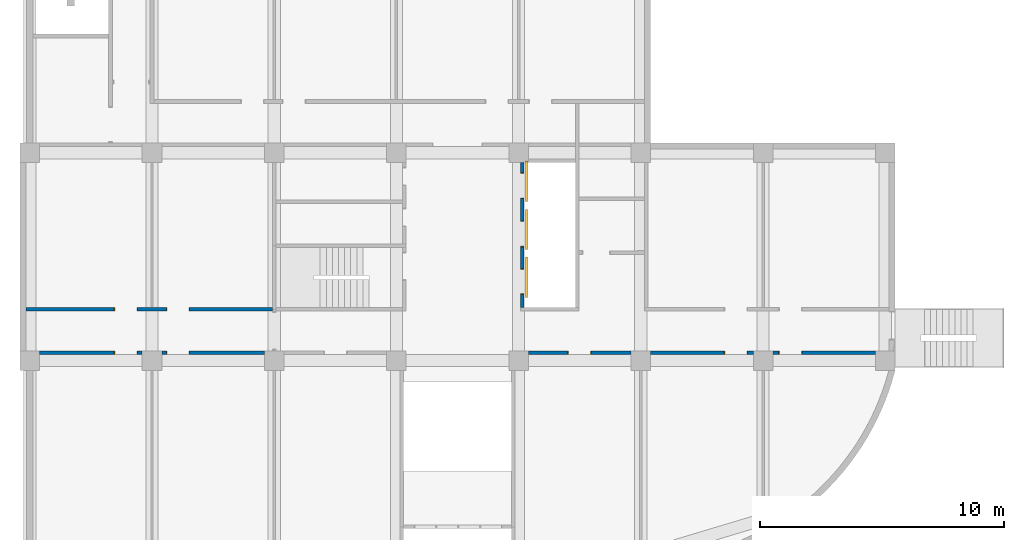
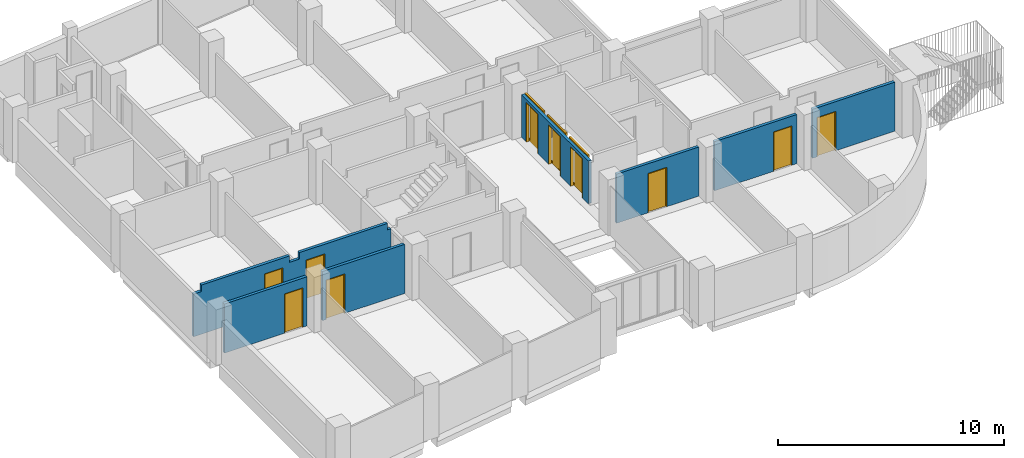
# One storey, part 3 of 7: 10 doors, 4 walls, 10 openings.
"""IFC2X3 building model written with IfcOpenShell, lengths in millimetres."""

import ifcopenshell
import ifcopenshell.guid

model = None  # the IFC model being written
_history = None  # IfcOwnerHistory: only IFC2X3 demands one
_inside = {}  # id of a spatial element -> (the spatial element, [elements in it])
_under = {}  # id of a project, library or spatial element -> (it, [spatial elements below it])
_declared = {}  # id of a project -> (the project, [libraries it declares])
_typed = {}  # id of a type object -> (the type object, [elements of that type])
_made_of = {}  # id of a material, layer set ... -> (it, [elements and type objects made of it])


def new_model(schema):
    """Start an empty IFC model of exactly this schema.

    Asked for "IFC4X3", IfcOpenShell would pick the latest addendum, in which some entities
    have other attributes; the version numbers below select the first issue.
    IFC2X3 requires an IfcOwnerHistory on every rooted entity: one is made here for all.
    """
    global model, _history
    if schema == "IFC4X3":
        model = ifcopenshell.file(schema_version=(4, 3, 0, 0))
    else:
        model = ifcopenshell.file(schema=schema)
    _inside.clear()
    _under.clear()
    _declared.clear()
    _typed.clear()
    _made_of.clear()
    _history = None
    if model.schema == "IFC2X3":
        org = make("IfcOrganization", Name="unknown")
        user = make(
            "IfcPersonAndOrganization",
            ThePerson=make("IfcPerson", FamilyName="unknown"),
            TheOrganization=org,
        )
        app = make(
            "IfcApplication",
            ApplicationDeveloper=org,
            Version="unknown",
            ApplicationFullName="unknown",
            ApplicationIdentifier="unknown",
        )
        _history = make(
            "IfcOwnerHistory",
            OwningUser=user,
            OwningApplication=app,
            ChangeAction="ADDED",
            CreationDate=0,
        )
    return model


def make(cls, **values):
    """One entity of the class cls with the attributes given. An attribute that is None is left unset."""
    return model.create_entity(
        cls, **{name: value for name, value in values.items() if value is not None}
    )


def entity(cls, *values):
    """Any entity or typed value of the class cls, its attributes in the order of the schema. None: left unset."""
    e = model.create_entity(cls)
    for i, value in enumerate(values):
        if value is not None:
            e[i] = value
    return e


def rooted(cls, **values):
    """An entity with a GlobalId (a new one), such as an element, a storey or a relation."""
    return make(cls, GlobalId=ifcopenshell.guid.new(), OwnerHistory=_history, **values)


def si_unit(unit_type, name, prefix=None):
    """IfcSIUnit, for example si_unit("LENGTHUNIT", "METRE", prefix="MILLI")."""
    return make("IfcSIUnit", UnitType=unit_type, Prefix=prefix, Name=name)


def converted_unit(unit_type, name, factor, base, dimensions=None, offset=None):
    """IfcConversionBasedUnit, such as the inch: factor (a typed value) times the base unit."""
    return make(
        "IfcConversionBasedUnit"
        if offset is None
        else "IfcConversionBasedUnitWithOffset",
        ConversionOffset=offset,
        Dimensions=None
        if dimensions is None
        else entity("IfcDimensionalExponents", *dimensions),
        UnitType=unit_type,
        Name=name,
        ConversionFactor=make(
            "IfcMeasureWithUnit", ValueComponent=factor, UnitComponent=base
        ),
    )


def derived_unit(unit_type, elements):
    """IfcDerivedUnit: a product of units, each with its exponent."""
    return make(
        "IfcDerivedUnit",
        Elements=[
            make("IfcDerivedUnitElement", Unit=unit, Exponent=power)
            for unit, power in elements
        ],
        UnitType=unit_type,
    )


def money_unit(currency):
    """IfcMonetaryUnit."""
    return make("IfcMonetaryUnit", Currency=currency)


def assignment(units):
    """IfcUnitAssignment: the units of a project."""
    return None if units is None else make("IfcUnitAssignment", Units=units)


def point(xyz):
    """IfcCartesianPoint."""
    return None if xyz is None else make("IfcCartesianPoint", Coordinates=xyz)


def direction(xyz):
    """IfcDirection."""
    return None if xyz is None else make("IfcDirection", DirectionRatios=xyz)


def frame(location, z_axis=None, x_axis=None):
    """IfcAxis2Placement3D, a coordinate frame: its origin and axes. An axis left out is left unset."""
    return make(
        "IfcAxis2Placement3D",
        Location=point(location),
        Axis=direction(z_axis),
        RefDirection=direction(x_axis),
    )


def origin_with_axes():
    """The frame at (0, 0, 0) with the z axis (0, 0, 1) and the x axis (1, 0, 0) written out."""
    return frame((0.0, 0.0, 0.0), z_axis=(0.0, 0.0, 1.0), x_axis=(1.0, 0.0, 0.0))


def place(relative_to, where):
    """IfcLocalPlacement: puts the frame where relative to a parent placement (None: the world)."""
    return make(
        "IfcLocalPlacement", PlacementRelTo=relative_to, RelativePlacement=where
    )


def context(
    kind, dimensions, precision=None, world=None, true_north=None, identifier=None
):
    """IfcGeometricRepresentationContext, for example the 3D "Model" context."""
    return make(
        "IfcGeometricRepresentationContext",
        ContextIdentifier=identifier,
        ContextType=kind,
        CoordinateSpaceDimension=dimensions,
        Precision=precision,
        WorldCoordinateSystem=world,
        TrueNorth=true_north,
    )


def subcontext(parent, identifier, kind, view, scale=None):
    """IfcGeometricRepresentationSubContext, for example "Body" below "Model"."""
    return make(
        "IfcGeometricRepresentationSubContext",
        ContextIdentifier=identifier,
        ContextType=kind,
        ParentContext=parent,
        TargetScale=scale,
        TargetView=view,
    )


def project(units=None, contexts=None):
    """IfcProject with its units and contexts."""
    return rooted(
        "IfcProject",
        Name="project",
        RepresentationContexts=contexts,
        UnitsInContext=assignment(units),
    )


def spatial(cls, under=None, at=None, **own):
    """A site, building, storey or space (cls), placed at a placement, below another one or the project."""
    s = rooted(cls, ObjectPlacement=at, **own)
    if under is not None:
        _under.setdefault(under.id(), (under, []))[1].append(s)
    return s


def faces_of(points, faces, orient=None, outer=None):
    """IfcFace entities. A face is a list of loops; a loop is a list of indices into points, from 0.

    orient and outer hold one flag for each loop. By default every Orientation is true, the
    first loop of a face is its IfcFaceOuterBound and the others are IfcFaceBound.
    """
    made = []
    for i, loops in enumerate(faces):
        bounds = []
        for j, loop in enumerate(loops):
            is_outer = j == 0 if outer is None else outer[i][j]
            bounds.append(
                make(
                    "IfcFaceOuterBound" if is_outer else "IfcFaceBound",
                    Bound=make("IfcPolyLoop", Polygon=[points[k] for k in loop]),
                    Orientation=True if orient is None else orient[i][j],
                )
            )
        made.append(make("IfcFace", Bounds=bounds))
    return made


def open_shell(faces, orient=None, outer=None):
    """The faces of one IfcOpenShell. surface_model builds it on its shared points."""
    return ("IfcOpenShell", faces, orient, outer)


def faceted_brep(points, faces, orient=None, outer=None, voids=None):
    """IfcFacetedBrep: a solid bounded by flat faces; with voids (closed shells), ...WithVoids."""
    shared = [point(p) for p in points]
    hull = make("IfcClosedShell", CfsFaces=faces_of(shared, faces, orient, outer))
    if voids is None:
        return make("IfcFacetedBrep", Outer=hull)
    return make(
        "IfcFacetedBrepWithVoids",
        Outer=hull,
        Voids=[
            make(cls, CfsFaces=faces_of(shared, fs, o, b)) for cls, fs, o, b in voids
        ],
    )


def surface_model(cls, points, shells):
    """IfcFaceBasedSurfaceModel or IfcShellBasedSurfaceModel (cls): surfaces that need not close."""
    shared = [point(p) for p in points]
    made = [make(c, CfsFaces=faces_of(shared, fs, o, b)) for c, fs, o, b in shells]
    if cls == "IfcFaceBasedSurfaceModel":
        return make(cls, FbsmFaces=made)
    return make(cls, SbsmBoundary=made)


def shape(context_of_items, identifier, shape_type, items):
    """IfcShapeRepresentation: the items that make up one representation, for example the "Body"."""
    return make(
        "IfcShapeRepresentation",
        ContextOfItems=context_of_items,
        RepresentationIdentifier=identifier,
        RepresentationType=shape_type,
        Items=items,
    )


def source(mapping_origin, context_of_items, identifier, shape_type, items):
    """IfcRepresentationMap: a shape defined once, which mapped items show again and again."""
    return make(
        "IfcRepresentationMap",
        MappingOrigin=mapping_origin,
        MappedRepresentation=shape(context_of_items, identifier, shape_type, items),
    )


def transform(
    local_origin,
    x_axis=None,
    y_axis=None,
    z_axis=None,
    scale=None,
    scale2=None,
    scale3=None,
    uniform=True,
):
    """IfcCartesianTransformationOperator3D, or its non-uniform kind. x_axis, y_axis, z_axis: its Axis1, 2, 3."""
    if uniform:
        return make(
            "IfcCartesianTransformationOperator3D",
            Axis1=direction(x_axis),
            Axis2=direction(y_axis),
            LocalOrigin=point(local_origin),
            Scale=scale,
            Axis3=direction(z_axis),
        )
    return make(
        "IfcCartesianTransformationOperator3DnonUniform",
        Axis1=direction(x_axis),
        Axis2=direction(y_axis),
        LocalOrigin=point(local_origin),
        Scale=scale,
        Axis3=direction(z_axis),
        Scale2=scale2,
        Scale3=scale3,
    )


def mapped(mapping_source, mapping_target):
    """IfcMappedItem: shows the shape of a source again, moved by a transform."""
    return make(
        "IfcMappedItem", MappingSource=mapping_source, MappingTarget=mapping_target
    )


def material(Name=None, Category=None):
    """IfcMaterial."""
    return make("IfcMaterial", Name=Name, Category=Category)


def made_of(thing, what):
    """Note that an element or type object is made of a material, layer set ...; save() writes the relation."""
    if what is not None:
        _made_of.setdefault(what.id(), (what, []))[1].append(thing)
    return thing


def type_object(cls, material=None, **own):
    """A type object (cls), such as IfcWallType, which elements share."""
    return made_of(rooted(cls, **own), material)


def element(
    cls,
    number,
    at=None,
    inside=None,
    cuts=None,
    type_object=None,
    material=None,
    context=None,
    identifier="Body",
    shape_type=None,
    held_by="IfcProductDefinitionShape",
    body=None,
    shapes=None,
    **own,
):
    """One element of the class cls, such as IfcWall. Its Tag is "e" and its number.

    at: its placement. inside: the storey or other place that contains it. cuts: it is an
    opening in that element (IfcRelVoidsElement). A single representation is given by context,
    identifier, shape_type and body (its items); several are given by shapes. held_by: the class
    of the entity that holds the representations. save() writes the other relations.
    """
    e = rooted(cls, Tag="e%d" % number, ObjectPlacement=at, **own)
    if body is not None:
        shapes = [shape(context, identifier, shape_type, body)]
    if shapes is not None:
        e.Representation = make(held_by, Representations=shapes)
    if inside is not None:
        _inside.setdefault(inside.id(), (inside, []))[1].append(e)
    if cuts is not None:
        rooted(
            "IfcRelVoidsElement", RelatingBuildingElement=cuts, RelatedOpeningElement=e
        )
    if type_object is not None:
        _typed.setdefault(type_object.id(), (type_object, []))[1].append(e)
    return made_of(e, material)


def fill(opening, filler):
    """IfcRelFillsElement: the door or window that sits in an opening."""
    return rooted(
        "IfcRelFillsElement",
        RelatingOpeningElement=opening,
        RelatedBuildingElement=filler,
    )


def aggregate(whole, parts):
    """IfcRelAggregates: a whole, such as a stair, and the parts it consists of."""
    return rooted("IfcRelAggregates", RelatingObject=whole, RelatedObjects=parts)


def save(model, path):
    """Write the relations noted so far, then the file.

    IfcRelAggregates (storeys below a building ...), IfcRelContainedInSpatialStructure (elements
    in a storey), IfcRelDefinesByType, IfcRelAssociatesMaterial and IfcRelDeclares: one each for
    every whole, place, type object, material and project.
    """
    for whole, parts in _under.values():
        aggregate(whole, parts)
    for where, things in _inside.values():
        rooted(
            "IfcRelContainedInSpatialStructure",
            RelatedElements=things,
            RelatingStructure=where,
        )
    for kind, things in _typed.values():
        rooted("IfcRelDefinesByType", RelatedObjects=things, RelatingType=kind)
    for what, things in _made_of.values():
        rooted("IfcRelAssociatesMaterial", RelatedObjects=things, RelatingMaterial=what)
    for by, libraries in _declared.values():
        rooted("IfcRelDeclares", RelatingContext=by, RelatedDefinitions=libraries)
    model.write(path)


model = new_model("IFC2X3")

# Units and contexts
model_context = context("Model", 3, precision=0.01, world=origin_with_axes(), true_north=direction((0.0, 1.0)))
body_context = subcontext(model_context, "Body", "Model", "MODEL_VIEW")
ifc_project = project(units=[si_unit("LENGTHUNIT", "METRE", prefix="MILLI"), si_unit("AREAUNIT", "SQUARE_METRE"), si_unit("VOLUMEUNIT", "CUBIC_METRE"), converted_unit("PLANEANGLEUNIT", "DEGREE", entity("IfcPlaneAngleMeasure", 0.0174532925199), si_unit("PLANEANGLEUNIT", "RADIAN"), dimensions=[0, 0, 0, 0, 0, 0, 0]), si_unit("SOLIDANGLEUNIT", "STERADIAN"), money_unit("JPY"), converted_unit("TIMEUNIT", "Year", entity("IfcTimeMeasure", 31556926.0), si_unit("TIMEUNIT", "SECOND"), dimensions=[0, 0, 1, 0, 0, 0, 0]), si_unit("MASSUNIT", "GRAM", prefix="KILO"), si_unit("THERMODYNAMICTEMPERATUREUNIT", "DEGREE_CELSIUS"), si_unit("LUMINOUSINTENSITYUNIT", "LUMEN"), si_unit("ENERGYUNIT", "JOULE", prefix="MEGA"), derived_unit("THERMALCONDUCTANCEUNIT", [(si_unit("POWERUNIT", "WATT"), 1), (si_unit("LENGTHUNIT", "METRE"), -1), (si_unit("THERMODYNAMICTEMPERATUREUNIT", "KELVIN"), -1)]), derived_unit("SPECIFICHEATCAPACITYUNIT", [(si_unit("ENERGYUNIT", "JOULE"), 1), (si_unit("MASSUNIT", "GRAM", prefix="KILO"), -1), (si_unit("THERMODYNAMICTEMPERATUREUNIT", "KELVIN"), -1)]), derived_unit("MASSDENSITYUNIT", [(si_unit("MASSUNIT", "GRAM", prefix="KILO"), 1), (si_unit("VOLUMEUNIT", "CUBIC_METRE"), -1)])], contexts=[model_context])

# Site, building, storey
site_placement = place(None, origin_with_axes())
site = spatial("IfcSite", under=ifc_project, at=site_placement, Name="サイト", CompositionType="ELEMENT")
building_placement = place(site_placement, origin_with_axes())
building = spatial("IfcBuilding", under=site, at=building_placement, Name="建築", CompositionType="ELEMENT")
storey_placement = place(building_placement, frame((0.0, 0.0, 3000.0), z_axis=(0.0, 0.0, 1.0), x_axis=(1.0, 0.0, 0.0)))
storey = spatial("IfcBuildingStorey", under=building, at=storey_placement, Name="2FL", CompositionType="ELEMENT", Elevation=3000.0)

# Wall, openings, doors
ifc_material = material(Name="コンクリート")
wall_type = type_object("IfcWallType", Name="コンクリート 150", PredefinedType="NOTDEFINED")
wall_1_placement = place(storey_placement, frame((10000.0, 324.999998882, 0.0), z_axis=(0.0, 0.0, 1.0), x_axis=(-1.0, 0.0, 0.0)))
wall_1 = element("IfcWall", 1, at=wall_1_placement, inside=storey, type_object=wall_type, material=ifc_material, Name="W4", context=body_context, shape_type="Brep", body=[
    faceted_brep([(6545.0, -75.0000011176, 2130.0), (6545.0, -75.0000011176, 0.0), (9600.0, -75.0000011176, 0.0), (9600.0, -75.0000011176, 2650.0), (5400.0, -75.0000011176, 2650.0), (5400.0, -75.0000011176, 0.0), (5585.0, -75.0000011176, 0.0), (5585.0, -75.0000011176, 2130.0), (6545.0, 74.9999988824, 2130.0), (6545.0, 75.0, 0.0), (9600.0, 75.0, 0.0), (9600.0, 74.9999988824, 2650.0), (5400.0, 74.9999988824, 2650.0), (5400.0, 75.0, 0.0), (5585.0, 75.0, 0.0), (5585.0, 74.9999988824, 2130.0)], [[[0, 1, 2, 3, 4, 5, 6, 7]], [[1, 0, 8, 9]], [[1, 9, 10, 2]], [[11, 3, 2, 10]], [[3, 11, 12, 4]], [[5, 4, 12, 13]], [[14, 6, 5, 13]], [[7, 6, 14, 15]], [[0, 7, 15, 8]], [[15, 14, 13, 12, 11, 10, 9, 8]]]),
    faceted_brep([(4415.0, -75.0000011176, 2130.0), (4415.0, -75.0000011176, 0.0), (4600.0, -75.0000011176, 0.0), (4600.0, -75.0000011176, 2650.0), (400.0, -75.0000011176, 2650.0), (400.0, -75.0000011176, 0.0), (3455.0, -75.0000011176, 0.0), (3455.0, -75.0000011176, 2130.0), (4415.0, 74.9999988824, 2130.0), (4415.0, 75.0, 0.0), (4600.0, 75.0, 0.0), (4600.0, 74.9999988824, 2650.0), (400.0, 74.9999988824, 2650.0), (400.0, 75.0, 0.0), (3455.0, 75.0, 0.0), (3455.0, 74.9999988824, 2130.0)], [[[0, 1, 2, 3, 4, 5, 6, 7]], [[1, 0, 8, 9]], [[1, 9, 10, 2]], [[11, 3, 2, 10]], [[3, 11, 12, 4]], [[5, 4, 12, 13]], [[14, 6, 5, 13]], [[7, 6, 14, 15]], [[0, 7, 15, 8]], [[15, 14, 13, 12, 11, 10, 9, 8]]]),
])
opening_1_placement = place(wall_1_placement, frame((3935.0, 0.0, 0.0), z_axis=(0.0, 0.0, 1.0), x_axis=(1.0, 0.0, 0.0)))
opening_1 = element("IfcOpeningElement", 2, at=opening_1_placement, cuts=wall_1, Name="SD4", context=body_context, shape_type="Brep", body=[
    faceted_brep([(-480.0, -160.0, 0.0), (-480.0, -160.0, 2130.0), (-480.0, 160.0, 2130.0), (-480.0, 160.0, 0.0), (480.0, -160.0, 0.0), (480.0, -160.0, 2130.0), (480.0, 160.0, 2130.0), (480.0, 160.0, 0.0)], [[[0, 1, 2, 3]], [[0, 4, 5, 1]], [[1, 5, 6, 2]], [[3, 2, 6, 7]], [[4, 0, 3, 7]], [[5, 4, 7, 6]]]),
])
opening_2_placement = place(wall_1_placement, frame((6065.0, 0.0, 0.0), z_axis=(0.0, 0.0, 1.0), x_axis=(1.0, 0.0, 0.0)))
opening_2 = element("IfcOpeningElement", 3, at=opening_2_placement, cuts=wall_1, Name="SD5", context=body_context, shape_type="Brep", body=[
    faceted_brep([(480.0, 160.0, 0.0), (480.0, 160.0, 2130.0), (480.0, -160.0, 2130.0), (480.0, -160.0, 0.0), (-480.0, 160.0, 0.0), (-480.0, 160.0, 2130.0), (-480.0, -160.0, 2130.0), (-480.0, -160.0, 0.0)], [[[0, 1, 2, 3]], [[0, 4, 5, 1]], [[1, 5, 6, 2]], [[3, 2, 6, 7]], [[4, 0, 3, 7]], [[5, 4, 7, 6]]]),
])
door_style_1 = type_object("IfcDoorStyle", Name="片開き戸", ConstructionType="NOTDEFINED", OperationType="NOTDEFINED", ParameterTakesPrecedence=False, Sizeable=False)
shared_shape_1 = source(origin_with_axes(), body_context, "Body", "SurfaceModel", [
    surface_model("IfcShellBasedSurfaceModel", [(-450.0, -85.0, 0.0), (-450.0, -85.0, 2100.0), (450.0, -85.0, 2100.0), (450.0, -85.0, 0.0)], [open_shell([[[0, 1, 2, 3]]])]),
    surface_model("IfcShellBasedSurfaceModel", [(-480.0, -10.0, 0.0), (-480.0, -10.0, 2130.0), (480.0, -10.0, 2130.0), (480.0, -10.0, 0.0), (450.0, -10.0, 0.0), (450.0, -10.0, 2100.0), (-450.0, -10.0, 2100.0), (-450.0, -10.0, 0.0)], [open_shell([[[0, 1, 2, 3, 4, 5, 6, 7]]])]),
    surface_model("IfcShellBasedSurfaceModel", [(-480.0, -160.0, 0.0), (-480.0, -160.0, 2130.0), (480.0, -160.0, 2130.0), (480.0, -160.0, 0.0), (450.0, -160.0, 0.0), (450.0, -160.0, 2100.0), (-450.0, -160.0, 2100.0), (-450.0, -160.0, 0.0)], [open_shell([[[0, 1, 2, 3, 4, 5, 6, 7]]])]),
    surface_model("IfcShellBasedSurfaceModel", [(-450.0, -10.0, 0.0), (-450.0, -10.0, 2100.0), (-450.0, -160.0, 2100.0), (-450.0, -160.0, 0.0), (450.0, -10.0, 2100.0), (450.0, -160.0, 2100.0), (-480.0, -10.0, 0.0), (-480.0, -160.0, 0.0), (450.0, -10.0, 0.0), (450.0, -160.0, 0.0), (-480.0, -10.0, 2130.0), (-480.0, -160.0, 2130.0), (480.0, -10.0, 0.0), (480.0, -160.0, 0.0), (480.0, -10.0, 2130.0), (480.0, -160.0, 2130.0)], [open_shell([[[0, 1, 2, 3]], [[1, 4, 5, 2]], [[6, 0, 3, 7]], [[4, 8, 9, 5]], [[10, 6, 7, 11]], [[8, 12, 13, 9]], [[14, 10, 11, 15]], [[12, 14, 15, 13]]])]),
])
door_1_placement = place(opening_1_placement, frame((-450.0, 0.0, 0.0), z_axis=(0.0, 0.0, 1.0), x_axis=(1.0, 0.0, 0.0)))
door_1 = element("IfcDoor", 4, at=door_1_placement, inside=storey, type_object=door_style_1, Name="SD4", OverallHeight=2165.0, OverallWidth=1030.0, context=body_context, shape_type="MappedRepresentation", body=[
    mapped(shared_shape_1, transform((450.0, 85.0, 0.0))),
])
fill(opening_1, door_1)
shared_shape_2 = source(origin_with_axes(), body_context, "Body", "SurfaceModel", [
    surface_model("IfcShellBasedSurfaceModel", [(450.0, -85.0, 0.0), (-450.0, -85.0, 0.0), (-450.0, -85.0, 2100.0), (450.0, -85.0, 2100.0)], [open_shell([[[0, 1, 2, 3]]])]),
    surface_model("IfcShellBasedSurfaceModel", [(480.0, -10.0, 0.0), (450.0, -10.0, 0.0), (450.0, -10.0, 2100.0), (-450.0, -10.0, 2100.0), (-450.0, -10.0, 0.0), (-480.0, -10.0, 0.0), (-480.0, -10.0, 2130.0), (480.0, -10.0, 2130.0)], [open_shell([[[0, 1, 2, 3, 4, 5, 6, 7]]])]),
    surface_model("IfcShellBasedSurfaceModel", [(480.0, -160.0, 0.0), (450.0, -160.0, 0.0), (450.0, -160.0, 2100.0), (-450.0, -160.0, 2100.0), (-450.0, -160.0, 0.0), (-480.0, -160.0, 0.0), (-480.0, -160.0, 2130.0), (480.0, -160.0, 2130.0)], [open_shell([[[0, 1, 2, 3, 4, 5, 6, 7]]])]),
    surface_model("IfcShellBasedSurfaceModel", [(450.0, -10.0, 0.0), (450.0, -160.0, 0.0), (450.0, -160.0, 2100.0), (450.0, -10.0, 2100.0), (480.0, -10.0, 0.0), (480.0, -160.0, 0.0), (-450.0, -160.0, 2100.0), (-450.0, -10.0, 2100.0), (480.0, -10.0, 2130.0), (480.0, -160.0, 2130.0), (-450.0, -160.0, 0.0), (-450.0, -10.0, 0.0), (-480.0, -10.0, 2130.0), (-480.0, -160.0, 2130.0), (-480.0, -160.0, 0.0), (-480.0, -10.0, 0.0)], [open_shell([[[0, 1, 2, 3]], [[4, 5, 1, 0]], [[3, 2, 6, 7]], [[8, 9, 5, 4]], [[7, 6, 10, 11]], [[12, 13, 9, 8]], [[11, 10, 14, 15]], [[15, 14, 13, 12]]])]),
])
door_2_placement = place(opening_2_placement, frame((-450.0, 0.0, 0.0), z_axis=(0.0, 0.0, 1.0), x_axis=(1.0, 0.0, 0.0)))
door_2 = element("IfcDoor", 5, at=door_2_placement, inside=storey, type_object=door_style_1, Name="SD5", OverallHeight=2165.0, OverallWidth=1030.0, context=body_context, shape_type="MappedRepresentation", body=[
    mapped(shared_shape_2, transform((450.0, 85.0, 0.0))),
])
fill(opening_2, door_2)

wall_2_placement = place(storey_placement, frame((-275.00006329, 2100.0, 0.0), z_axis=(0.0, 0.0, 1.0), x_axis=(1.0, 0.0, 0.0)))
wall_2 = element("IfcWall", 6, at=wall_2_placement, inside=storey, type_object=wall_type, material=ifc_material, Name="W3", context=body_context, shape_type="Brep", body=[
    faceted_brep([(3730.00006329, 75.0, 2130.0), (3730.00006329, 75.0, 0.0), (125.0, 75.0, 0.0), (125.0, 75.0, 2300.0), (525.00006329, 75.0, 2300.0), (525.00006329, 75.0, 2650.0), (5025.00006329, 75.0, 2650.0), (5025.00006329, 75.0, 2300.0), (5525.00006329, 75.0, 2300.0), (5525.00006329, 75.0, 2650.0), (10025.0000633, 75.0, 2650.0), (10025.0000633, 75.0, 2300.0), (10200.0000633, 75.0, 2300.0), (10200.0000633, 75.0, 0.0), (6820.00006329, 75.0, 0.0), (6820.00006329, 75.0, 2130.0), (5860.00006329, 75.0, 2130.0), (5860.00006329, 75.0, 0.0), (4690.00006329, 75.0, 0.0), (4690.00006329, 75.0, 2130.0), (3730.00006329, -75.0, 2130.0), (3730.00006329, -75.0, 0.0), (125.0, -75.0, 0.0), (125.0, -75.0, 2300.0), (525.00006329, -75.0, 2300.0), (525.00006329, -75.0, 2650.0), (5025.00006329, -75.0, 2650.0), (5025.00006329, -75.0, 2300.0), (5525.00006329, -75.0, 2300.0), (5525.00006329, -75.0, 2650.0), (10025.0000633, -75.0, 2650.0), (10025.0000633, -75.0, 2300.0), (10200.0000633, -75.0, 2300.0), (10200.0000633, 0.0, 2300.0), (10200.0000633, 0.0, 0.0), (10200.0000633, -75.0, 0.0), (6820.00006329, -75.0, 0.0), (6820.00006329, -75.0, 2130.0), (5860.00006329, -75.0, 2130.0), (5860.00006329, -75.0, 0.0), (4690.00006329, -75.0, 0.0), (4690.00006329, -75.0, 2130.0)], [[[0, 1, 2, 3, 4, 5, 6, 7, 8, 9, 10, 11, 12, 13, 14, 15, 16, 17, 18, 19]], [[1, 0, 20, 21]], [[1, 21, 22, 2]], [[3, 2, 22, 23]], [[3, 23, 24, 4]], [[5, 4, 24, 25]], [[25, 26, 6, 5]], [[6, 26, 27, 7]], [[7, 27, 28, 8]], [[9, 8, 28, 29]], [[29, 30, 10, 9]], [[10, 30, 31, 11]], [[31, 32, 33, 12, 11]], [[33, 34, 13, 12]], [[13, 34, 35, 36, 14]], [[14, 36, 37, 15]], [[15, 37, 38, 16]], [[16, 38, 39, 17]], [[40, 18, 17, 39]], [[19, 18, 40, 41]], [[0, 19, 41, 20]], [[41, 40, 39, 38, 37, 36, 35, 32, 31, 30, 29, 28, 27, 26, 25, 24, 23, 22, 21, 20]], [[32, 35, 34, 33]]]),
])
opening_3_placement = place(wall_2_placement, frame((6340.00006329, 0.0, 0.0), z_axis=(0.0, 0.0, 1.0), x_axis=(1.0, 0.0, 0.0)))
opening_3 = element("IfcOpeningElement", 7, at=opening_3_placement, cuts=wall_2, Name="SD4", context=body_context, shape_type="Brep", body=[
    faceted_brep([(480.0, 160.0, 0.0), (480.0, 160.0, 2130.0), (480.0, -160.0, 2130.0), (480.0, -160.0, 0.0), (-480.0, 160.0, 0.0), (-480.0, 160.0, 2130.0), (-480.0, -160.0, 2130.0), (-480.0, -160.0, 0.0)], [[[0, 1, 2, 3]], [[0, 4, 5, 1]], [[1, 5, 6, 2]], [[3, 2, 6, 7]], [[4, 0, 3, 7]], [[5, 4, 7, 6]]]),
])
opening_4_placement = place(wall_2_placement, frame((4210.00006329, 0.0, 0.0), z_axis=(0.0, 0.0, 1.0), x_axis=(1.0, 0.0, 0.0)))
opening_4 = element("IfcOpeningElement", 8, at=opening_4_placement, cuts=wall_2, Name="SD5", context=body_context, shape_type="Brep", body=[
    faceted_brep([(-480.0, -160.0, 0.0), (-480.0, -160.0, 2130.0), (-480.0, 160.0, 2130.0), (-480.0, 160.0, 0.0), (480.0, -160.0, 0.0), (480.0, -160.0, 2130.0), (480.0, 160.0, 2130.0), (480.0, 160.0, 0.0)], [[[0, 1, 2, 3]], [[0, 4, 5, 1]], [[1, 5, 6, 2]], [[3, 2, 6, 7]], [[4, 0, 3, 7]], [[5, 4, 7, 6]]]),
])
door_3_placement = place(opening_4_placement, frame((-450.0, 0.0, 0.0), z_axis=(0.0, 0.0, 1.0), x_axis=(1.0, 0.0, 0.0)))
door_3 = element("IfcDoor", 9, at=door_3_placement, inside=storey, type_object=door_style_1, Name="SD5", OverallHeight=2165.0, OverallWidth=1030.0, context=body_context, shape_type="MappedRepresentation", body=[
    mapped(shared_shape_1, transform((450.0, 85.0, 0.0))),
])
fill(opening_4, door_3)
door_4_placement = place(opening_3_placement, frame((-450.0, 0.0, 0.0), z_axis=(0.0, 0.0, 1.0), x_axis=(1.0, 0.0, 0.0)))
door_4 = element("IfcDoor", 10, at=door_4_placement, inside=storey, type_object=door_style_1, Name="SD4", OverallHeight=2165.0, OverallWidth=1030.0, context=body_context, shape_type="MappedRepresentation", body=[
    mapped(shared_shape_2, transform((450.0, 85.0, 0.0))),
])
fill(opening_3, door_4)

wall_3_placement = place(storey_placement, frame((19775.0000519, 325.000021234, 0.0), z_axis=(0.0, 0.0, 1.0), x_axis=(1.0, 0.0, 0.0)))
wall_3 = element("IfcWall", 11, at=wall_3_placement, inside=storey, type_object=wall_type, material=ifc_material, Name="W5", context=body_context, shape_type="Brep", body=[
    faceted_brep([(2229.9998683, 74.9999787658, 2130.0), (2229.9998683, 74.9999787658, 0.0), (624.999948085, 74.9999787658, 0.0), (624.999948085, 74.9999787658, 2650.0), (4824.99994809, 74.9999787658, 2650.0), (4824.99994809, 74.9999787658, 0.0), (3189.9998683, 74.9999787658, 0.0), (3189.9998683, 74.9999787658, 2130.0), (2229.9998683, -75.0000212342, 2130.0), (2229.9998683, -75.0, 0.0), (624.999948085, -75.0, 0.0), (624.999948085, -75.0000212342, 2650.0), (4824.99994809, -75.0000212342, 2650.0), (4824.99994809, -75.0, 0.0), (3189.9998683, -75.0, 0.0), (3189.9998683, -75.0000212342, 2130.0)], [[[0, 1, 2, 3, 4, 5, 6, 7]], [[1, 0, 8, 9]], [[1, 9, 10, 2]], [[11, 3, 2, 10]], [[3, 11, 12, 4]], [[5, 4, 12, 13]], [[14, 6, 5, 13]], [[7, 6, 14, 15]], [[0, 7, 15, 8]], [[15, 14, 13, 12, 11, 10, 9, 8]]]),
    faceted_brep([(10859.9999481, 74.9999787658, 2130.0), (10859.9999481, 74.9999787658, 0.0), (10624.9999481, 74.9999787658, 0.0), (10624.9999481, 74.9999787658, 2650.0), (14824.9999481, 74.9999787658, 2650.0), (14824.9999481, 74.9999787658, 0.0), (11819.9999481, 74.9999787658, 0.0), (11819.9999481, 74.9999787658, 2130.0), (10859.9999481, -75.0000023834, 2130.0), (10859.9999481, -75.0, 0.0), (10624.9999481, -75.0, 0.0), (10624.9999481, -75.0000205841, 2650.0), (14824.9999481, -75.0000023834, 2650.0), (14824.9999481, -75.0, 0.0), (11819.9999481, -75.0, 0.0), (11819.9999481, -75.0000023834, 2130.0)], [[[0, 1, 2, 3, 4, 5, 6, 7]], [[1, 0, 8, 9]], [[1, 9, 10, 2]], [[11, 3, 2, 10]], [[3, 11, 12, 4]], [[5, 4, 12, 13]], [[14, 6, 5, 13]], [[7, 6, 14, 15]], [[0, 7, 15, 8]], [[15, 14, 13, 12, 11, 10, 9, 8]]]),
    faceted_brep([(8629.99994809, 74.9999787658, 2130.0), (8629.99994809, 74.9999787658, 0.0), (5624.99994809, 74.9999787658, 0.0), (5624.99994809, 74.9999787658, 2650.0), (9824.99994809, 74.9999787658, 2650.0), (9824.99994809, 74.9999787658, 0.0), (9589.99994809, 74.9999787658, 0.0), (9589.99994809, 74.9999787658, 2130.0), (8629.99994809, -75.0000212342, 2130.0), (8629.99994809, -75.0, 0.0), (5624.99994809, -75.0, 0.0), (5624.99994809, -75.0000212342, 2650.0), (9824.99994809, -75.0000212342, 2650.0), (9824.99994809, -75.0, 0.0), (9589.99994809, -75.0, 0.0), (9589.99994809, -75.0000212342, 2130.0)], [[[0, 1, 2, 3, 4, 5, 6, 7]], [[1, 0, 8, 9]], [[1, 9, 10, 2]], [[11, 3, 2, 10]], [[3, 11, 12, 4]], [[5, 4, 12, 13]], [[14, 6, 5, 13]], [[7, 6, 14, 15]], [[0, 7, 15, 8]], [[15, 14, 13, 12, 11, 10, 9, 8]]]),
])
opening_5_placement = place(wall_3_placement, frame((11339.9999481, 0.0, 0.0), z_axis=(0.0, 0.0, 1.0), x_axis=(1.0, 0.0, 0.0)))
opening_5 = element("IfcOpeningElement", 12, at=opening_5_placement, cuts=wall_3, Name="SD5", context=body_context, shape_type="Brep", body=[
    faceted_brep([(480.0, 160.0, 0.0), (480.0, 160.0, 2130.0), (480.0, -160.0, 2130.0), (480.0, -160.0, 0.0), (-480.0, 160.0, 0.0), (-480.0, 160.0, 2130.0), (-480.0, -160.0, 2130.0), (-480.0, -160.0, 0.0)], [[[0, 1, 2, 3]], [[0, 4, 5, 1]], [[1, 5, 6, 2]], [[3, 2, 6, 7]], [[4, 0, 3, 7]], [[5, 4, 7, 6]]]),
])
opening_6_placement = place(wall_3_placement, frame((9109.99994809, 0.0, 0.0), z_axis=(0.0, 0.0, 1.0), x_axis=(1.0, 0.0, 0.0)))
opening_6 = element("IfcOpeningElement", 13, at=opening_6_placement, cuts=wall_3, Name="SD4", context=body_context, shape_type="Brep", body=[
    faceted_brep([(-480.0, -160.0, 0.0), (-480.0, -160.0, 2130.0), (-480.0, 160.0, 2130.0), (-480.0, 160.0, 0.0), (480.0, -160.0, 0.0), (480.0, -160.0, 2130.0), (480.0, 160.0, 2130.0), (480.0, 160.0, 0.0)], [[[0, 1, 2, 3]], [[0, 4, 5, 1]], [[1, 5, 6, 2]], [[3, 2, 6, 7]], [[4, 0, 3, 7]], [[5, 4, 7, 6]]]),
])
opening_7_placement = place(wall_3_placement, frame((2709.9998683, 0.0, 0.0), z_axis=(0.0, 0.0, 1.0), x_axis=(1.0, 0.0, 0.0)))
opening_7 = element("IfcOpeningElement", 14, at=opening_7_placement, cuts=wall_3, Name="SD4", context=body_context, shape_type="Brep", body=[
    faceted_brep([(-480.0, -160.0, 0.0), (-480.0, -160.0, 2130.0), (-480.0, 160.0, 2130.0), (-480.0, 160.0, 0.0), (480.0, -160.0, 0.0), (480.0, -160.0, 2130.0), (480.0, 160.0, 2130.0), (480.0, 160.0, 0.0)], [[[0, 1, 2, 3]], [[0, 4, 5, 1]], [[1, 5, 6, 2]], [[3, 2, 6, 7]], [[4, 0, 3, 7]], [[5, 4, 7, 6]]]),
])
door_5_placement = place(opening_5_placement, frame((450.0, 0.0, 0.0), z_axis=(0.0, 0.0, 1.0), x_axis=(-1.0, 0.0, 0.0)))
door_5 = element("IfcDoor", 15, at=door_5_placement, inside=storey, type_object=door_style_1, Name="SD5", OverallHeight=2165.0, OverallWidth=1030.0, context=body_context, shape_type="MappedRepresentation", body=[
    mapped(shared_shape_1, transform((450.0, 85.0, 0.0))),
])
fill(opening_5, door_5)
shared_shape_3 = source(origin_with_axes(), body_context, "Body", "SurfaceModel", [
    surface_model("IfcShellBasedSurfaceModel", [(450.0, 85.0, 0.0), (-450.0, 85.0, 0.0), (-450.0, 85.0, 2100.0), (450.0, 85.0, 2100.0)], [open_shell([[[0, 1, 2, 3]]])]),
    surface_model("IfcShellBasedSurfaceModel", [(480.0, 160.0, 0.0), (450.0, 160.0, 0.0), (450.0, 160.0, 2100.0), (-450.0, 160.0, 2100.0), (-450.0, 160.0, 0.0), (-480.0, 160.0, 0.0), (-480.0, 160.0, 2130.0), (480.0, 160.0, 2130.0)], [open_shell([[[0, 1, 2, 3, 4, 5, 6, 7]]])]),
    surface_model("IfcShellBasedSurfaceModel", [(480.0, 10.0, 0.0), (450.0, 10.0, 0.0), (450.0, 10.0, 2100.0), (-450.0, 10.0, 2100.0), (-450.0, 10.0, 0.0), (-480.0, 10.0, 0.0), (-480.0, 10.0, 2130.0), (480.0, 10.0, 2130.0)], [open_shell([[[0, 1, 2, 3, 4, 5, 6, 7]]])]),
    surface_model("IfcShellBasedSurfaceModel", [(450.0, 160.0, 0.0), (450.0, 10.0, 0.0), (450.0, 10.0, 2100.0), (450.0, 160.0, 2100.0), (480.0, 160.0, 0.0), (480.0, 10.0, 0.0), (-450.0, 10.0, 2100.0), (-450.0, 160.0, 2100.0), (480.0, 160.0, 2130.0), (480.0, 10.0, 2130.0), (-450.0, 10.0, 0.0), (-450.0, 160.0, 0.0), (-480.0, 160.0, 2130.0), (-480.0, 10.0, 2130.0), (-480.0, 10.0, 0.0), (-480.0, 160.0, 0.0)], [open_shell([[[0, 1, 2, 3]], [[4, 5, 1, 0]], [[3, 2, 6, 7]], [[8, 9, 5, 4]], [[7, 6, 10, 11]], [[12, 13, 9, 8]], [[11, 10, 14, 15]], [[15, 14, 13, 12]]])]),
])
door_6_placement = place(opening_6_placement, frame((450.0, 0.0, 0.0), z_axis=(0.0, 0.0, 1.0), x_axis=(-1.0, 0.0, 0.0)))
door_6 = element("IfcDoor", 16, at=door_6_placement, inside=storey, type_object=door_style_1, Name="SD4", OverallHeight=2165.0, OverallWidth=1030.0, context=body_context, shape_type="MappedRepresentation", body=[
    mapped(shared_shape_3, transform((450.0, -85.0, 0.0))),
])
fill(opening_6, door_6)
door_7_placement = place(opening_7_placement, frame((450.0, 0.0, 0.0), z_axis=(0.0, 0.0, 1.0), x_axis=(-1.0, 0.0, 0.0)))
door_7 = element("IfcDoor", 17, at=door_7_placement, inside=storey, type_object=door_style_1, Name="SD4", OverallHeight=2165.0, OverallWidth=1030.0, context=body_context, shape_type="MappedRepresentation", body=[
    mapped(shared_shape_3, transform((450.0, -85.0, 0.0))),
])
fill(opening_7, door_7)

wall_4_placement = place(storey_placement, frame((20150.0, 2100.0, 0.0), z_axis=(0.0, 0.0, 1.0), x_axis=(0.0, 1.0, 0.0)))
wall_4 = element("IfcWall", 18, at=wall_4_placement, inside=storey, type_object=wall_type, material=ifc_material, Name="W6", context=body_context, shape_type="Brep", body=[
    faceted_brep([(605.0, -75.0, 0.0), (605.0, -75.0, 2130.0), (1665.0, -75.0, 2130.0), (1665.0, -75.0, 0.0), (2554.97613952, -75.0, 0.0), (2554.97613952, -75.0, 2130.0), (3614.97613952, -75.0, 2130.0), (3614.97613952, -75.0, 0.0), (4530.0, -75.0, 0.0), (4530.0, -75.0, 2130.0), (5590.0, -75.0, 2130.0), (5590.0, -75.0, 0.0), (6000.0, -75.0, 0.0), (6000.0, -74.9999978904, 2300.0), (74.9999977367, -74.9999786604, 2300.0), (75.0, -75.0, 0.0), (605.0, 75.0, 0.0), (605.0, 75.0, 2130.0), (1665.0, 75.0, 2130.0), (1665.0, 75.0, 0.0), (2554.97613952, 75.0, 0.0), (2554.97613952, 75.0, 2130.0), (3614.97613952, 75.0, 2130.0), (3614.97613952, 75.0, 0.0), (4530.0, 75.0, 0.0), (4530.0, 75.0, 2130.0), (5590.0, 75.0, 2130.0), (5590.0, 75.0, 0.0), (6000.0, 75.0, 0.0), (6000.0, 75.0, 2300.0), (75.0, 75.0, 2300.0), (75.0, 75.0, 0.0)], [[[0, 1, 2, 3, 4, 5, 6, 7, 8, 9, 10, 11, 12, 13, 14, 15]], [[1, 0, 16, 17]], [[2, 1, 17, 18]], [[3, 2, 18, 19]], [[3, 19, 20, 4]], [[4, 20, 21, 5]], [[5, 21, 22, 6]], [[6, 22, 23, 7]], [[23, 24, 8, 7]], [[24, 25, 9, 8]], [[25, 26, 10, 9]], [[26, 27, 11, 10]], [[28, 12, 11, 27]], [[12, 28, 29, 13]], [[30, 14, 13, 29]], [[30, 31, 15, 14]], [[16, 0, 15, 31]], [[17, 16, 31, 30, 29, 28, 27, 26, 25, 24, 23, 22, 21, 20, 19, 18]]]),
])
opening_8_placement = place(wall_4_placement, frame((5060.0, 0.0, 0.0), z_axis=(0.0, 0.0, 1.0), x_axis=(1.0, 0.0, 0.0)))
opening_8 = element("IfcOpeningElement", 19, at=opening_8_placement, cuts=wall_4, Name="SD5", context=body_context, shape_type="Brep", body=[
    faceted_brep([(-530.0, -150.0, 0.0), (-530.0, -150.0, 2130.0), (-530.0, 150.0, 2130.0), (-530.0, 150.0, 0.0), (530.0, -150.0, 0.0), (530.0, -150.0, 2130.0), (530.0, 150.0, 2130.0), (530.0, 150.0, 0.0)], [[[0, 1, 2, 3]], [[0, 4, 5, 1]], [[1, 5, 6, 2]], [[3, 2, 6, 7]], [[4, 0, 3, 7]], [[5, 4, 7, 6]]]),
])
opening_9_placement = place(wall_4_placement, frame((3084.97613952, 0.0, 0.0), z_axis=(0.0, 0.0, 1.0), x_axis=(1.0, 0.0, 0.0)))
opening_9 = element("IfcOpeningElement", 20, at=opening_9_placement, cuts=wall_4, Name="SD5", context=body_context, shape_type="Brep", body=[
    faceted_brep([(-530.0, -150.0, 0.0), (-530.0, -150.0, 2130.0), (-530.0, 150.0, 2130.0), (-530.0, 150.0, 0.0), (530.0, -150.0, 0.0), (530.0, -150.0, 2130.0), (530.0, 150.0, 2130.0), (530.0, 150.0, 0.0)], [[[0, 1, 2, 3]], [[0, 4, 5, 1]], [[1, 5, 6, 2]], [[3, 2, 6, 7]], [[4, 0, 3, 7]], [[5, 4, 7, 6]]]),
])
opening_10_placement = place(wall_4_placement, frame((1135.0, 0.0, 0.0), z_axis=(0.0, 0.0, 1.0), x_axis=(1.0, 0.0, 0.0)))
opening_10 = element("IfcOpeningElement", 21, at=opening_10_placement, cuts=wall_4, Name="SD5", context=body_context, shape_type="Brep", body=[
    faceted_brep([(-530.0, -150.0, 0.0), (-530.0, -150.0, 2130.0), (-530.0, 150.0, 2130.0), (-530.0, 150.0, 0.0), (530.0, -150.0, 0.0), (530.0, -150.0, 2130.0), (530.0, 150.0, 2130.0), (530.0, 150.0, 0.0)], [[[0, 1, 2, 3]], [[0, 4, 5, 1]], [[1, 5, 6, 2]], [[3, 2, 6, 7]], [[4, 0, 3, 7]], [[5, 4, 7, 6]]]),
])
door_style_2 = type_object("IfcDoorStyle", Name="EVドア_小枠タイプ", ConstructionType="NOTDEFINED", OperationType="NOTDEFINED", ParameterTakesPrecedence=False, Sizeable=False)
shared_shape_4 = source(origin_with_axes(), body_context, "Body", "SurfaceModel", [
    surface_model("IfcShellBasedSurfaceModel", [(515.0, -200.5, 0.0), (-15.0, -200.5, 0.0), (-15.0, -200.5, 2100.0), (515.0, -200.5, 2100.0), (350.0, -200.5, 1100.0), (350.0, -200.5, 1800.0), (150.0, -200.5, 1800.0), (150.0, -200.5, 1100.0)], [open_shell([[[0, 1, 2, 3], [4, 5, 6, 7]]])]),
    surface_model("IfcShellBasedSurfaceModel", [(350.0, -200.5, 1100.0), (150.0, -200.5, 1100.0), (150.0, -200.5, 1800.0), (350.0, -200.5, 1800.0)], [open_shell([[[0, 1, 2, 3]]])]),
    surface_model("IfcShellBasedSurfaceModel", [(15.0, -201.5, 0.0), (-515.0, -201.5, 0.0), (-515.0, -201.5, 2100.0), (15.0, -201.5, 2100.0), (-150.0, -201.5, 1100.0), (-150.0, -201.5, 1800.0), (-350.0, -201.5, 1800.0), (-350.0, -201.5, 1100.0)], [open_shell([[[0, 1, 2, 3], [4, 5, 6, 7]]])]),
    surface_model("IfcShellBasedSurfaceModel", [(-150.0, -201.5, 1100.0), (-350.0, -201.5, 1100.0), (-350.0, -201.5, 1800.0), (-150.0, -201.5, 1800.0)], [open_shell([[[0, 1, 2, 3]]])]),
    surface_model("IfcShellBasedSurfaceModel", [(-530.0, 0.0, 0.0), (-530.0, 0.0, 2130.0), (530.0, 0.0, 2130.0), (530.0, 0.0, 0.0), (500.0, 0.0, 0.0), (500.0, 0.0, 2100.0), (-500.0, 0.0, 2100.0), (-500.0, 0.0, 0.0)], [open_shell([[[0, 1, 2, 3, 4, 5, 6, 7]]])]),
    surface_model("IfcShellBasedSurfaceModel", [(-530.0, -150.0, 0.0), (-530.0, -150.0, 2130.0), (530.0, -150.0, 2130.0), (530.0, -150.0, 0.0), (500.0, -150.0, 0.0), (500.0, -150.0, 2100.0), (-500.0, -150.0, 2100.0), (-500.0, -150.0, 0.0)], [open_shell([[[0, 1, 2, 3, 4, 5, 6, 7]]])]),
    surface_model("IfcShellBasedSurfaceModel", [(-500.0, 0.0, 0.0), (-500.0, 0.0, 2100.0), (-500.0, -150.0, 2100.0), (-500.0, -150.0, 0.0), (500.0, 0.0, 2100.0), (500.0, -150.0, 2100.0), (-530.0, 0.0, 0.0), (-530.0, -150.0, 0.0), (500.0, 0.0, 0.0), (500.0, -150.0, 0.0), (-530.0, 0.0, 2130.0), (-530.0, -150.0, 2130.0), (530.0, 0.0, 0.0), (530.0, -150.0, 0.0), (530.0, 0.0, 2130.0), (530.0, -150.0, 2130.0)], [open_shell([[[0, 1, 2, 3]], [[1, 4, 5, 2]], [[6, 0, 3, 7]], [[4, 8, 9, 5]], [[10, 6, 7, 11]], [[8, 12, 13, 9]], [[14, 10, 11, 15]], [[12, 14, 15, 13]]])]),
    faceted_brep([(-645.0, -200.0, 0.0), (-645.0, -200.0, -50.0), (-645.0, -290.0, -50.0), (-645.0, -290.0, 0.0), (1000.0, -200.0, 0.0), (1000.0, -200.0, -50.0), (1000.0, -290.0, -50.0), (1000.0, -290.0, 0.0)], [[[0, 1, 2, 3]], [[0, 4, 5, 1]], [[1, 5, 6, 2]], [[3, 2, 6, 7]], [[4, 0, 3, 7]], [[5, 4, 7, 6]]]),
    faceted_brep([(1000.0, -290.0, 2150.0), (1000.0, -290.0, 2300.0), (-645.0, -290.0, 2300.0), (-645.0, -290.0, 2150.0), (1000.0, -200.0, 2150.0), (1000.0, -200.0, 2300.0), (-645.0, -200.0, 2300.0), (-645.0, -200.0, 2150.0)], [[[0, 1, 2, 3]], [[0, 4, 5, 1]], [[1, 5, 6, 2]], [[3, 2, 6, 7]], [[4, 0, 3, 7]], [[5, 4, 7, 6]]]),
])
door_8_placement = place(opening_8_placement, frame((-500.0, 0.0, 0.0), z_axis=(0.0, 0.0, 1.0), x_axis=(1.0, 0.0, 0.0)))
door_8 = element("IfcDoor", 22, at=door_8_placement, inside=storey, type_object=door_style_2, Name="SD5", OverallHeight=2225.0, OverallWidth=1340.0, context=body_context, shape_type="MappedRepresentation", body=[
    mapped(shared_shape_4, transform((500.0, 75.0, 0.0))),
])
fill(opening_8, door_8)
door_9_placement = place(opening_9_placement, frame((-500.0, 0.0, 0.0), z_axis=(0.0, 0.0, 1.0), x_axis=(1.0, 0.0, 0.0)))
door_9 = element("IfcDoor", 23, at=door_9_placement, inside=storey, type_object=door_style_2, Name="SD5", OverallHeight=2225.0, OverallWidth=1340.0, context=body_context, shape_type="MappedRepresentation", body=[
    mapped(shared_shape_4, transform((500.0, 75.0, 0.0))),
])
fill(opening_9, door_9)
door_10_placement = place(opening_10_placement, frame((-500.0, 0.0, 0.0), z_axis=(0.0, 0.0, 1.0), x_axis=(1.0, 0.0, 0.0)))
door_10 = element("IfcDoor", 24, at=door_10_placement, inside=storey, type_object=door_style_2, Name="SD5", OverallHeight=2225.0, OverallWidth=1340.0, context=body_context, shape_type="MappedRepresentation", body=[
    mapped(shared_shape_4, transform((500.0, 75.0, 0.0))),
])
fill(opening_10, door_10)

save(model, "model.ifc")
